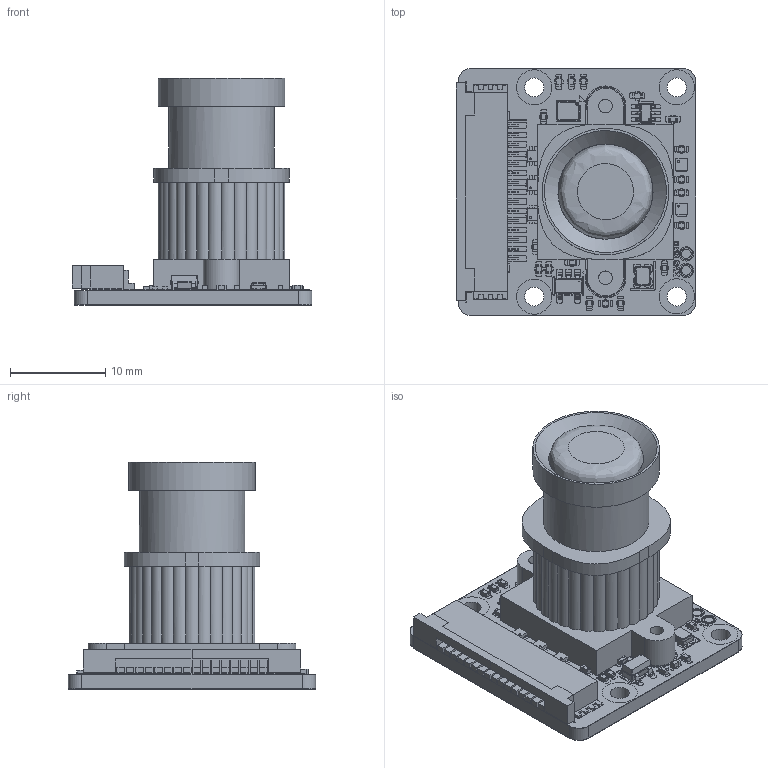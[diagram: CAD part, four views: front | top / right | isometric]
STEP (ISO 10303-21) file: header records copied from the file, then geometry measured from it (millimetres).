
FILE_DESCRIPTION(('KiCad electronic assembly'),'2;1');
FILE_NAME('.step','2026-08-09T14:36:03',('Pcbnew'),('Kicad'), 'Open CASCADE STEP processor 7.9','KiCad to STEP converter','Unknown' );
FILE_SCHEMA(('AUTOMOTIVE_DESIGN { 1 0 10303 214 1 1 1 1 }'));
Length unit declared in the file: millimetre
Products named in the file (16): .step 1; C_0402_1005Metric; Lens_popr; R_0402_1005Metric; DFN-6-1EP_1.2x1.2mm_P0.4mm_EP0.3x0.94mm; WLCSP-9_1.21x1.22mm_Layout3x3_P0.4mm; SOT-23-5; TE_1-84952-5_1x15-1MP_P1.0mm_Horizontal; Oscillator_SMD_SeikoEpson_SG210-4Pin_2.5x2.0mm; SOT-363_SC-70-6; KAmod-IMX477_vLDO_pad; KAmod-IMX477_vLDO_silkscreen; KAmod-IMX477_vLDO_soldermask; KAmod-IMX477_vLDO_PCB
Assembly tree (42 placements, depth 2):
  .step 1
    C_0402_1005Metric  x17
    Lens_popr
    R_0402_1005Metric  x8
    DFN-6-1EP_1.2x1.2mm_P0.4mm_EP0.3x0.94mm  x5
    WLCSP-9_1.21x1.22mm_Layout3x3_P0.4mm
    SOT-23-5
    TE_1-84952-5_1x15-1MP_P1.0mm_Horizontal
    Oscillator_SMD_SeikoEpson_SG210-4Pin_2.5x2.0mm
    SOT-363_SC-70-6
    KAmod-IMX477_vLDO_pad
    KAmod-IMX477_vLDO_silkscreen
    KAmod-IMX477_vLDO_silkscreen
    KAmod-IMX477_vLDO_soldermask
    KAmod-IMX477_vLDO_soldermask
    KAmod-IMX477_vLDO_PCB
Bounding box: 25.2 x 26 x 23.91 mm (x, y, z)
Volume: 4328.7 mm3; surface area: 5177 mm2
Topology: 280 solids, 455 shells, 3240 faces, 10695 edges, 8251 vertices
Faces by surface type: plane 2158, cylinder 843, bspline 205, extrusion 34
Full cylindrical faces by diameter (mm): 0.2 x5, 0.25 x18, 0.36 x92, 1 x16, 2 x4
Entity records: 102732 total; most frequent: CARTESIAN_POINT 20325, DIRECTION 14662, ORIENTED_EDGE 13467, EDGE_CURVE 8506, VERTEX_POINT 6807, VECTOR 5804, LINE 5770, AXIS2_PLACEMENT_3D 4429
